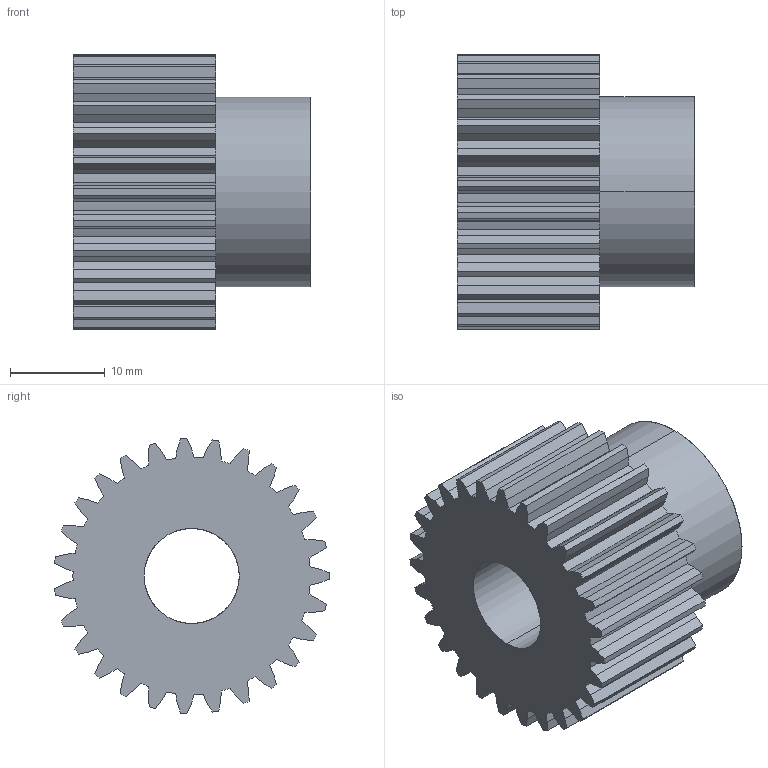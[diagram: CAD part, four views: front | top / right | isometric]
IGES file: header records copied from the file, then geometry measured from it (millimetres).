
Start section: SolidWorks IGES file using analytic representation for surfaces
Global section: file name: C:\Users\Honza\Desktop\Matis (Hotove)\Èelní ozubená kola\PM\MODUL 1\PM 26027.IGS; native system: SolidWorks 2010; preprocessor: SolidWorks 2010; author: Honza; date: 130923.143221; units: millimetre
Bounding box: 25 x 28.94 x 28.98 mm (x, y, z)
Surface area: 4779.9 mm2 (no closed solid volume)
Topology: 0 solids, 0 shells, 169 faces, 1117 edges, 1117 vertices
Faces by surface type: bspline 111, revolution 58
